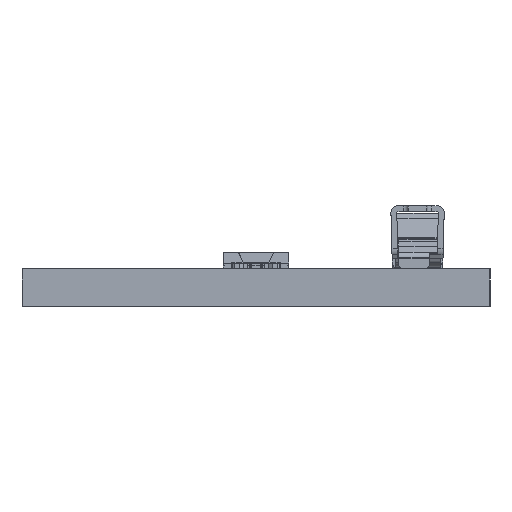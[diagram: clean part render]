
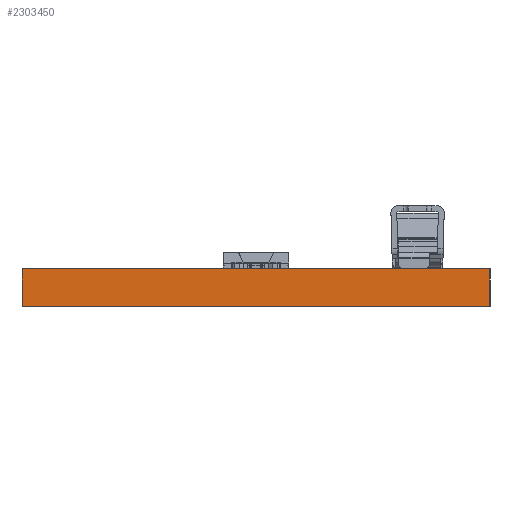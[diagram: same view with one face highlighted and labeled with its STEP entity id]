
A CAD part, left-side view. The second image highlights one B-rep face of the part: STEP entity #2303450.
In plain terms, the highlighted planar face has unit normal (-1, 0, 0).
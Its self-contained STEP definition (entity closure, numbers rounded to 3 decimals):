
#2297220=CARTESIAN_POINT('',(3.816,40.752,0.));
#2297230=DIRECTION('',(0.,-1.,0.));
#2297240=VECTOR('',#2297230,1.);
#2297250=LINE('',#2297220,#2297240);
#2297260=CARTESIAN_POINT('',(3.816,40.752,0.));
#2297270=VERTEX_POINT('',#2297260);
#2297280=CARTESIAN_POINT('',(3.816,20.752,0.));
#2297290=VERTEX_POINT('',#2297280);
#2297300=EDGE_CURVE('',#2297270,#2297290,#2297250,.T.);
#2303020=CARTESIAN_POINT('',(3.816,20.752,-1.6));
#2303030=VERTEX_POINT('',#2303020);
#2303060=CARTESIAN_POINT('',(3.816,20.752,-1.6));
#2303070=DIRECTION('',(0.,0.,1.));
#2303080=VECTOR('',#2303070,1.);
#2303090=LINE('',#2303060,#2303080);
#2303100=EDGE_CURVE('',#2303030,#2297290,#2303090,.T.);
#2303220=CARTESIAN_POINT('',(3.816,20.752,0.));
#2303230=DIRECTION('',(1.,0.,0.));
#2303240=DIRECTION('',(0.,-1.,0.));
#2303250=AXIS2_PLACEMENT_3D('',#2303220,#2303230,#2303240);
#2303260=PLANE('',#2303250);
#2303270=ORIENTED_EDGE('',*,*,#2297300,.F.);
#2303280=ORIENTED_EDGE('',*,*,#2303100,.T.);
#2303290=CARTESIAN_POINT('',(3.816,40.752,-1.6));
#2303300=DIRECTION('',(0.,-1.,0.));
#2303310=VECTOR('',#2303300,1.);
#2303320=LINE('',#2303290,#2303310);
#2303330=CARTESIAN_POINT('',(3.816,40.752,-1.6));
#2303340=VERTEX_POINT('',#2303330);
#2303350=EDGE_CURVE('',#2303340,#2303030,#2303320,.T.);
#2303360=ORIENTED_EDGE('',*,*,#2303350,.T.);
#2303370=CARTESIAN_POINT('',(3.816,40.752,-1.6));
#2303380=DIRECTION('',(0.,0.,1.));
#2303390=VECTOR('',#2303380,1.);
#2303400=LINE('',#2303370,#2303390);
#2303410=EDGE_CURVE('',#2303340,#2297270,#2303400,.T.);
#2303420=ORIENTED_EDGE('',*,*,#2303410,.F.);
#2303430=EDGE_LOOP('',(#2303420,#2303360,#2303280,#2303270));
#2303440=FACE_OUTER_BOUND('',#2303430,.T.);
#2303450=ADVANCED_FACE('',(#2303440),#2303260,.F.);
